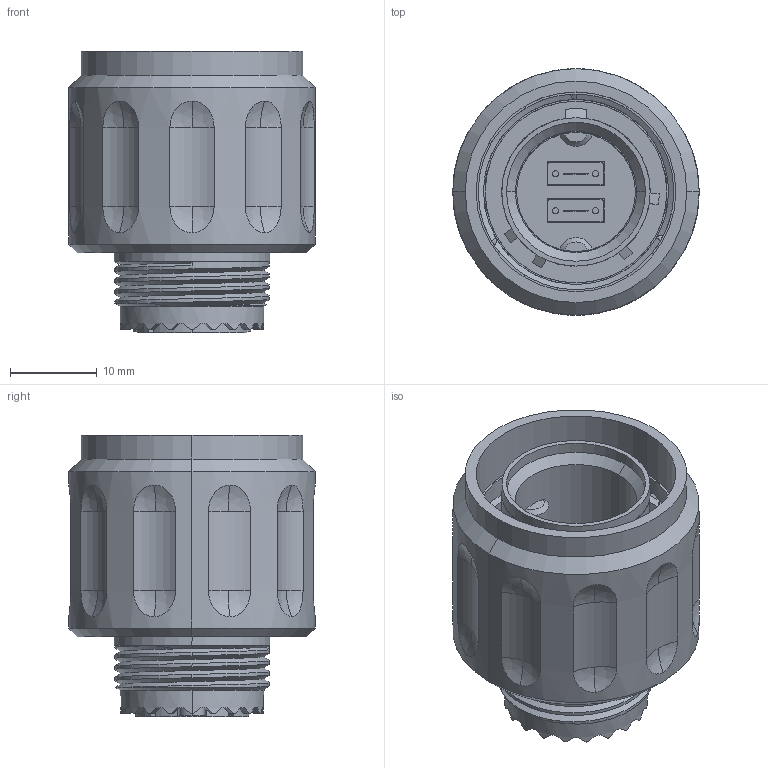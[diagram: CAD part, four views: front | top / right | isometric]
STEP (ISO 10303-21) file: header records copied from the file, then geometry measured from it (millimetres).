
FILE_DESCRIPTION (( 'STEP AP214' ), '1' );
FILE_NAME ('Q38MT-PGX-13XX-X.STEP', '2025-08-27T14:44:50', ( '' ), ( '' ), 'SwSTEP 2.0', 'SolidWorks 2024', '' );
FILE_SCHEMA (( 'AUTOMOTIVE_DESIGN' ));
Length unit declared in the file: inch
Products named in the file (1): Q38MT-PGX-13XX-X
Bounding box: 28.4 x 28.4 x 32.46 mm (x, y, z)
Volume: 10506.5 mm3; surface area: 7914.3 mm2
Topology: 1 solids, 7 shells, 561 faces, 1399 edges, 903 vertices
Faces by surface type: plane 242, cylinder 220, cone 45, sphere 40, bspline 14
Entity records: 20465 total; most frequent: CARTESIAN_POINT 7226, DIRECTION 2811, ORIENTED_EDGE 2786, EDGE_CURVE 1393, AXIS2_PLACEMENT_3D 1115, VERTEX_POINT 903, EDGE_LOOP 626, VECTOR 581
